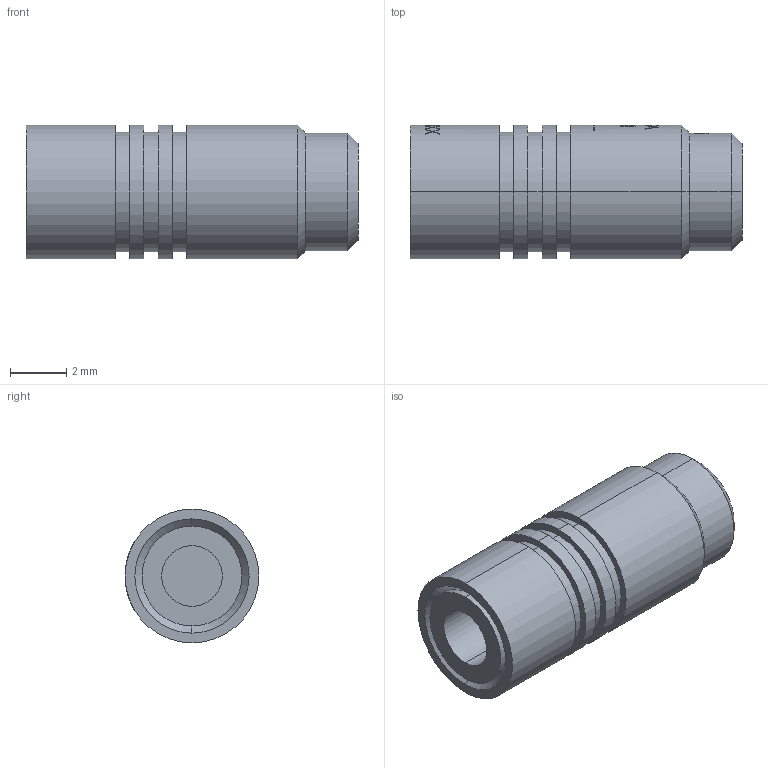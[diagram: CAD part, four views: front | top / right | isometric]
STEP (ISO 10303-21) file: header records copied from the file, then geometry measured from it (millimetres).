
FILE_DESCRIPTION (( 'STEP AP214' ), '1' );
FILE_NAME ('NZSA---.STEP', '2021-04-01T13:53:49', ( '' ), ( '' ), 'SwSTEP 2.0', 'SolidWorks 2018', '' );
FILE_SCHEMA (( 'AUTOMOTIVE_DESIGN' ));
Length unit declared in the file: inch
Products named in the file (1): NZSA---
Bounding box: 11.81 x 4.76 x 4.76 mm (x, y, z)
Volume: 174.2 mm3; surface area: 273.3 mm2
Topology: 1 solids, 1 shells, 267 faces, 680 edges, 448 vertices
Faces by surface type: bspline 119, plane 88, cylinder 48, cone 12
Entity records: 12659 total; most frequent: CARTESIAN_POINT 4285, ORIENTED_EDGE 1360, DIRECTION 752, EDGE_CURVE 680, VERTEX_POINT 448, B_SPLINE_CURVE_WITH_KNOTS 400, AXIS2_PLACEMENT_3D 323, EDGE_LOOP 300
